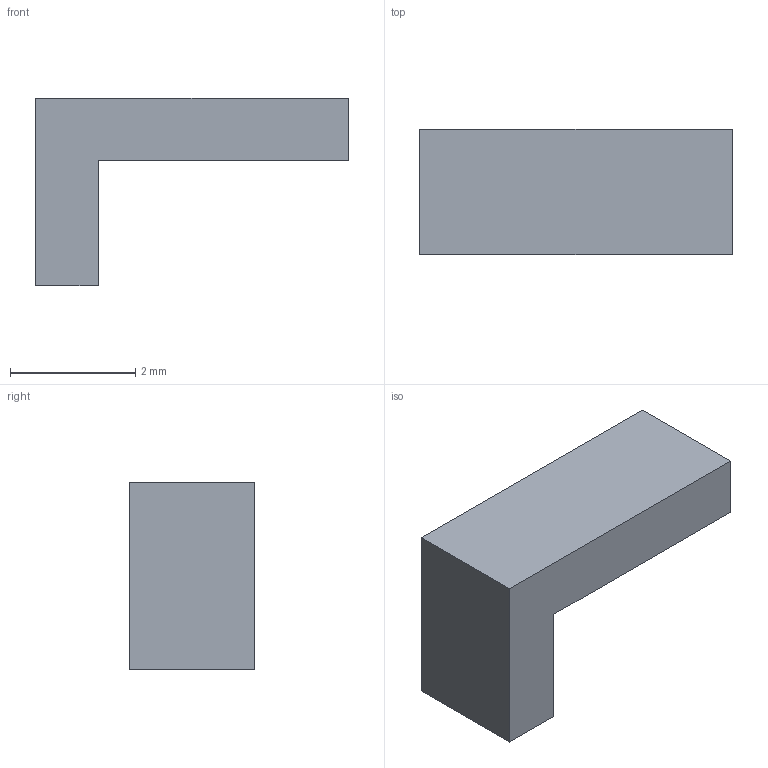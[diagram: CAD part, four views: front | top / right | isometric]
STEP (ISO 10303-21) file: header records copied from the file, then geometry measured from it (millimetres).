
FILE_DESCRIPTION(/* description */ (''),/* implementation_level */ '2;1');
FILE_NAME(/* name */ 'C:\Users\user\Documents\Inventor\Home Ventilator CPAP\interrupt.stp',/* time_stamp */ '2020-04-03T18:07:42+02:00',/* author */ ('user'),/* organization */ (''),/* preprocessor_version */ 'ST-DEVELOPER v16.5',/* originating_system */ 'Autodesk Inventor 2017',/* authorisation */ '');
FILE_SCHEMA (('AUTOMOTIVE_DESIGN { 1 0 10303 214 3 1 1 }'));
Length unit declared in the file: millimetre
Products named in the file (1): interrupt
Bounding box: 5 x 2 x 3 mm (x, y, z)
Volume: 14 mm3; surface area: 46 mm2
Topology: 1 solids, 1 shells, 8 faces, 18 edges, 12 vertices
Faces by surface type: plane 8
Entity records: 252 total; most frequent: CARTESIAN_POINT 39, ORIENTED_EDGE 36, DIRECTION 36, LINE 18, VECTOR 18, EDGE_CURVE 18, VERTEX_POINT 12, AXIS2_PLACEMENT_3D 9
